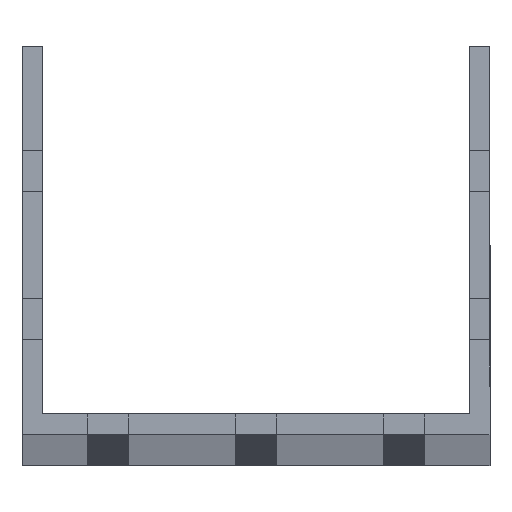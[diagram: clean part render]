
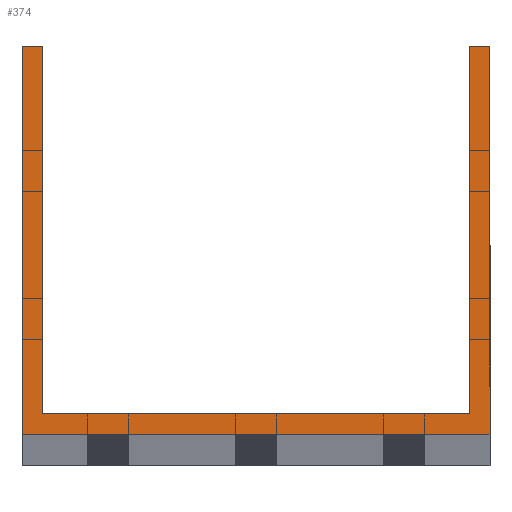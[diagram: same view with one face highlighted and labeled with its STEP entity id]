
A CAD part, top view. The second image highlights one B-rep face of the part: STEP entity #374.
In plain terms, the highlighted planar face has unit normal (0, 0, 1).
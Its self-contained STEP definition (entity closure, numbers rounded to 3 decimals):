
#374 = ADVANCED_FACE ( 'NONE', ( #51216 ), #7749, .T. ) ;
#697 = VECTOR ( 'NONE', #68553, 1000. ) ;
#1905 = VECTOR ( 'NONE', #57055, 1000. ) ;
#2977 = ORIENTED_EDGE ( 'NONE', *, *, #64654, .T. ) ;
#4317 = CARTESIAN_POINT ( 'NONE',  ( -39.5, 3.5, 1500. ) ) ;
#4923 = LINE ( 'NONE', #47343, #697 ) ;
#5983 = ORIENTED_EDGE ( 'NONE', *, *, #15848, .T. ) ;
#6699 = DIRECTION ( 'NONE',  ( 0., -1., 0. ) ) ;
#7749 = PLANE ( 'NONE',  #65567 ) ;
#9004 = VECTOR ( 'NONE', #55353, 1000. ) ;
#9213 = VERTEX_POINT ( 'NONE', #48403 ) ;
#9721 = ORIENTED_EDGE ( 'NONE', *, *, #52450, .T. ) ;
#10418 = CARTESIAN_POINT ( 'NONE',  ( 36., 65.5, 1500. ) ) ;
#12610 = CARTESIAN_POINT ( 'NONE',  ( -36., 65.5, 1500. ) ) ;
#12670 = EDGE_LOOP ( 'NONE', ( #59609, #33382, #62194, #2977, #5983, #9721, #44554, #12763 ) ) ;
#12763 = ORIENTED_EDGE ( 'NONE', *, *, #59066, .F. ) ;
#13339 = VERTEX_POINT ( 'NONE', #22893 ) ;
#15848 = EDGE_CURVE ( 'NONE', #48154, #13339, #34485, .T. ) ;
#21044 = LINE ( 'NONE', #31155, #23155 ) ;
#22893 = CARTESIAN_POINT ( 'NONE',  ( 39.5, 65.5, 1500. ) ) ;
#23155 = VECTOR ( 'NONE', #68032, 1000. ) ;
#23215 = VECTOR ( 'NONE', #6699, 1000. ) ;
#25907 = VERTEX_POINT ( 'NONE', #44601 ) ;
#26525 = CARTESIAN_POINT ( 'NONE',  ( -39.5, 0., 1500. ) ) ;
#28059 = EDGE_CURVE ( 'NONE', #68474, #9213, #68826, .T. ) ;
#28963 = DIRECTION ( 'NONE',  ( 0., 0., 1. ) ) ;
#31097 = DIRECTION ( 'NONE',  ( 1., 0., 0. ) ) ;
#31155 = CARTESIAN_POINT ( 'NONE',  ( -39.5, 65.5, 1500. ) ) ;
#32580 = EDGE_CURVE ( 'NONE', #34598, #60600, #55145, .T. ) ;
#33382 = ORIENTED_EDGE ( 'NONE', *, *, #32580, .T. ) ;
#34485 = LINE ( 'NONE', #55713, #9004 ) ;
#34504 = CARTESIAN_POINT ( 'NONE',  ( -39.5, 0., 1500. ) ) ;
#34598 = VERTEX_POINT ( 'NONE', #55696 ) ;
#37400 = VECTOR ( 'NONE', #31097, 1000. ) ;
#38814 = DIRECTION ( 'NONE',  ( -1., 0., 0. ) ) ;
#44554 = ORIENTED_EDGE ( 'NONE', *, *, #28059, .F. ) ;
#44601 = CARTESIAN_POINT ( 'NONE',  ( -36., 3.5, 1500. ) ) ;
#47343 = CARTESIAN_POINT ( 'NONE',  ( -39.5, 65.5, 1500. ) ) ;
#47687 = VERTEX_POINT ( 'NONE', #26525 ) ;
#48154 = VERTEX_POINT ( 'NONE', #54261 ) ;
#48339 = CARTESIAN_POINT ( 'NONE',  ( 36., 3.5, 1500. ) ) ;
#48403 = CARTESIAN_POINT ( 'NONE',  ( 36., 65.5, 1500. ) ) ;
#50192 = DIRECTION ( 'NONE',  ( 1., 0., 0. ) ) ;
#50534 = CARTESIAN_POINT ( 'NONE',  ( -39.5, 65.5, 1500. ) ) ;
#51216 = FACE_OUTER_BOUND ( 'NONE', #12670, .T. ) ;
#52450 = EDGE_CURVE ( 'NONE', #13339, #9213, #21044, .T. ) ;
#52992 = EDGE_CURVE ( 'NONE', #34598, #25907, #54350, .T. ) ;
#54261 = CARTESIAN_POINT ( 'NONE',  ( 39.5, 0., 1500. ) ) ;
#54350 = LINE ( 'NONE', #12610, #23215 ) ;
#55145 = LINE ( 'NONE', #55501, #62093 ) ;
#55353 = DIRECTION ( 'NONE',  ( 0., 1., 0. ) ) ;
#55501 = CARTESIAN_POINT ( 'NONE',  ( -39.5, 65.5, 1500. ) ) ;
#55696 = CARTESIAN_POINT ( 'NONE',  ( -36., 65.5, 1500. ) ) ;
#55713 = CARTESIAN_POINT ( 'NONE',  ( 39.5, 65.5, 1500. ) ) ;
#56396 = LINE ( 'NONE', #34504, #68807 ) ;
#57055 = DIRECTION ( 'NONE',  ( 0., 1., 0. ) ) ;
#59066 = EDGE_CURVE ( 'NONE', #25907, #68474, #62422, .T. ) ;
#59609 = ORIENTED_EDGE ( 'NONE', *, *, #52992, .F. ) ;
#60600 = VERTEX_POINT ( 'NONE', #50534 ) ;
#60788 = EDGE_CURVE ( 'NONE', #60600, #47687, #4923, .T. ) ;
#62093 = VECTOR ( 'NONE', #38814, 1000. ) ;
#62194 = ORIENTED_EDGE ( 'NONE', *, *, #60788, .T. ) ;
#62422 = LINE ( 'NONE', #4317, #37400 ) ;
#64654 = EDGE_CURVE ( 'NONE', #47687, #48154, #56396, .T. ) ;
#65567 = AXIS2_PLACEMENT_3D ( 'NONE', #67209, #28963, #50192 ) ;
#66141 = DIRECTION ( 'NONE',  ( 1., 0., 0. ) ) ;
#67209 = CARTESIAN_POINT ( 'NONE',  ( 0., 0., 1500. ) ) ;
#68032 = DIRECTION ( 'NONE',  ( -1., 0., 0. ) ) ;
#68474 = VERTEX_POINT ( 'NONE', #48339 ) ;
#68553 = DIRECTION ( 'NONE',  ( 0., -1., 0. ) ) ;
#68807 = VECTOR ( 'NONE', #66141, 1000. ) ;
#68826 = LINE ( 'NONE', #10418, #1905 ) ;
